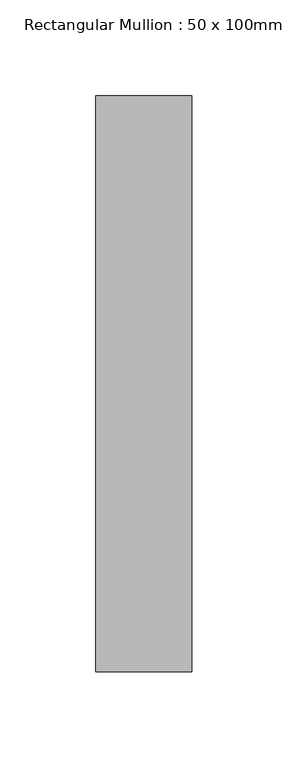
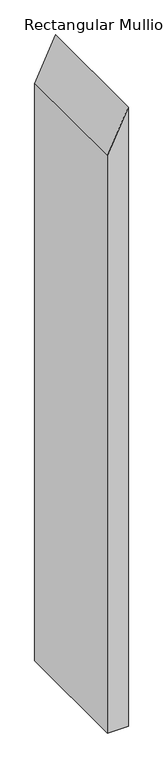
"""IFC4 building model written with IfcOpenShell, lengths in millimetres: member geometry, Rectangular Mullion : 50 x 100mm."""

from ifc_helpers import new_model, si_unit, frame, origin, place, context, project, spatial, polyline, outline, extrude, source, transform, mapped, element, save


def rectangular_mullion_50_x_100mm_fe611bd6(model_context):
    return source(origin(), model_context, "Body", "SweptSolid", [
        extrude(outline(polyline([(0.0, 0.0), (-105.5913796, -50.0), (-1560.0, -50.0), (-1560.0, 0.0), (0.0, 0.0)])), frame((0.0, -125.0, 0.0), z_axis=(0.0, 1.0, 0.0), x_axis=(0.0, 0.0, 1.0)), (0.0, 0.0, 1.0), 300.0),
    ])


if __name__ == "__main__":
    model = new_model("IFC4")
    model_context = context("Model", 3, world=origin())
    ifc_project = project(units=[si_unit("LENGTHUNIT", "METRE", prefix="MILLI")], contexts=[model_context])
    site = spatial("IfcSite", under=ifc_project)
    building = spatial("IfcBuilding", under=site)
    placement = place(None, origin())
    rectangular_mullion_50_x_100mm_shape = rectangular_mullion_50_x_100mm_fe611bd6(model_context)
    element("IfcMember", 1, ObjectType="Rectangular Mullion : 50 x 100mm", at=placement, inside=building, context=model_context, shape_type="MappedRepresentation", body=[
        mapped(rectangular_mullion_50_x_100mm_shape, transform((0.0, 0.0, 0.0), x_axis=(1.0, 0.0, 0.0), y_axis=(0.0, 1.0, 0.0), z_axis=(0.0, 0.0, 1.0))),
    ])
    save(model, "model.ifc")
